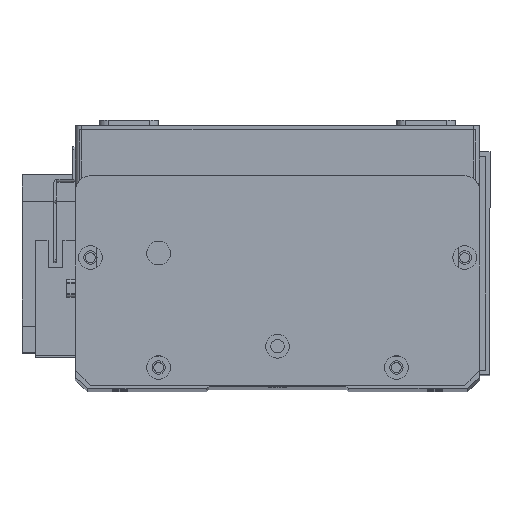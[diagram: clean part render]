
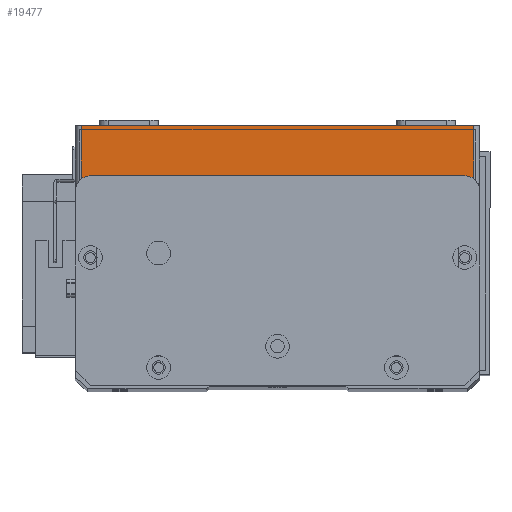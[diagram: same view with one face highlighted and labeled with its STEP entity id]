
A CAD part, top view. The second image highlights one B-rep face of the part: STEP entity #19477.
In plain terms, the highlighted planar face has unit normal (0, 0, 1) as drawn and (0, -1, 0) by its records, which use the part's own axes.
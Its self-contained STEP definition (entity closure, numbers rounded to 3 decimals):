
#121 = VERTEX_POINT ( 'NONE', #3163 ) ;
#1490 = CARTESIAN_POINT ( 'NONE',  ( 0., 0., 19.5 ) ) ;
#2149 = LINE ( 'NONE', #25989, #19590 ) ;
#3073 = ORIENTED_EDGE ( 'NONE', *, *, #3160, .F. ) ;
#3160 = EDGE_CURVE ( 'NONE', #5628, #121, #3191, .T. ) ;
#3163 = CARTESIAN_POINT ( 'NONE',  ( 134., 0., 19.5 ) ) ;
#3191 = LINE ( 'NONE', #11560, #25830 ) ;
#3795 = DIRECTION ( 'NONE',  ( 0., 0., 1. ) ) ;
#4896 = CARTESIAN_POINT ( 'NONE',  ( 2., 0., 19.5 ) ) ;
#4923 = AXIS2_PLACEMENT_3D ( 'NONE', #1490, #17416, #3795 ) ;
#5628 = VERTEX_POINT ( 'NONE', #4896 ) ;
#5727 = CARTESIAN_POINT ( 'NONE',  ( 134., 0., 0. ) ) ;
#5872 = EDGE_CURVE ( 'NONE', #25082, #121, #28590, .T. ) ;
#7711 = ORIENTED_EDGE ( 'NONE', *, *, #27912, .T. ) ;
#8320 = PLANE ( 'NONE',  #4923 ) ;
#8441 = CARTESIAN_POINT ( 'NONE',  ( 0., 0., 0. ) ) ;
#10278 = DIRECTION ( 'NONE',  ( 0., 0., -1. ) ) ;
#10640 = CARTESIAN_POINT ( 'NONE',  ( 134., 0., 19.5 ) ) ;
#10772 = DIRECTION ( 'NONE',  ( 1., 0., 0. ) ) ;
#10918 = FACE_OUTER_BOUND ( 'NONE', #25982, .T. ) ;
#11414 = LINE ( 'NONE', #8441, #16659 ) ;
#11512 = DIRECTION ( 'NONE',  ( 0., 0., 1. ) ) ;
#11560 = CARTESIAN_POINT ( 'NONE',  ( 0., 0., 19.5 ) ) ;
#11632 = DIRECTION ( 'NONE',  ( 1., 0., 0. ) ) ;
#12033 = ORIENTED_EDGE ( 'NONE', *, *, #17457, .T. ) ;
#16604 = ORIENTED_EDGE ( 'NONE', *, *, #5872, .T. ) ;
#16659 = VECTOR ( 'NONE', #10772, 1000. ) ;
#17383 = CARTESIAN_POINT ( 'NONE',  ( 2., 0., 0. ) ) ;
#17416 = DIRECTION ( 'NONE',  ( 0., 1., 0. ) ) ;
#17457 = EDGE_CURVE ( 'NONE', #20171, #25082, #11414, .T. ) ;
#19477 = ADVANCED_FACE ( 'NONE', ( #10918 ), #8320, .F. ) ;
#19590 = VECTOR ( 'NONE', #10278, 1000. ) ;
#20171 = VERTEX_POINT ( 'NONE', #17383 ) ;
#25082 = VERTEX_POINT ( 'NONE', #5727 ) ;
#25830 = VECTOR ( 'NONE', #11632, 1000. ) ;
#25982 = EDGE_LOOP ( 'NONE', ( #3073, #7711, #12033, #16604 ) ) ;
#25989 = CARTESIAN_POINT ( 'NONE',  ( 2., 0., 19.5 ) ) ;
#27894 = VECTOR ( 'NONE', #11512, 1000. ) ;
#27912 = EDGE_CURVE ( 'NONE', #5628, #20171, #2149, .T. ) ;
#28590 = LINE ( 'NONE', #10640, #27894 ) ;
